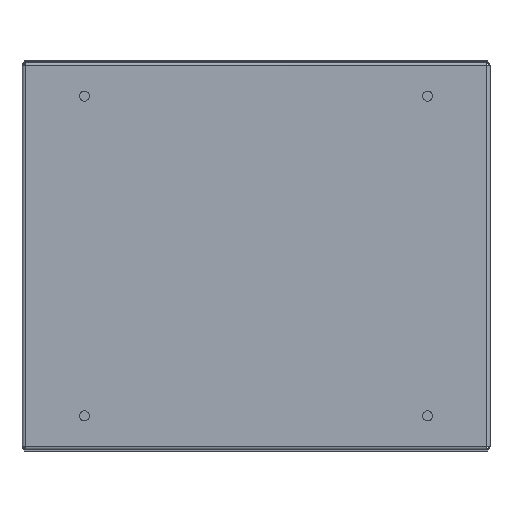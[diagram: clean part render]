
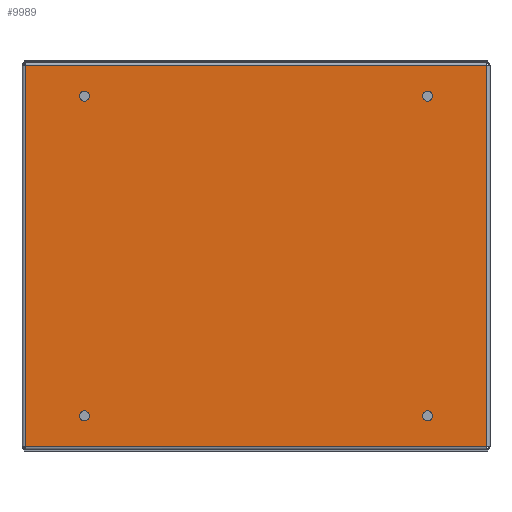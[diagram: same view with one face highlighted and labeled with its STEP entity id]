
A CAD part, front view. The second image highlights one B-rep face of the part: STEP entity #9989.
In plain terms, the highlighted planar face has unit normal (0, -1, 0).
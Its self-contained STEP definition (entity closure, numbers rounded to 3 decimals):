
#21 = EDGE_LOOP ( 'NONE', ( #4664, #37 ) ) ;
#37 = ORIENTED_EDGE ( 'NONE', *, *, #8574, .T. ) ;
#196 = CIRCLE ( 'NONE', #4793, 3.25 ) ;
#270 = AXIS2_PLACEMENT_3D ( 'NONE', #7053, #9759, #11617 ) ;
#336 = EDGE_CURVE ( 'NONE', #427, #9142, #1492, .T. ) ;
#392 = VERTEX_POINT ( 'NONE', #10353 ) ;
#427 = VERTEX_POINT ( 'NONE', #5896 ) ;
#575 = DIRECTION ( 'NONE',  ( 1., 0., 0. ) ) ;
#592 = PLANE ( 'NONE',  #3121 ) ;
#633 = CARTESIAN_POINT ( 'NONE',  ( 110., 0., 102.5 ) ) ;
#783 = LINE ( 'NONE', #10043, #10063 ) ;
#845 = FACE_BOUND ( 'NONE', #3910, .T. ) ;
#1004 = DIRECTION ( 'NONE',  ( -1., 0., 0. ) ) ;
#1067 = VERTEX_POINT ( 'NONE', #4144 ) ;
#1172 = DIRECTION ( 'NONE',  ( -1., 0., 0. ) ) ;
#1174 = ORIENTED_EDGE ( 'NONE', *, *, #10409, .T. ) ;
#1396 = DIRECTION ( 'NONE',  ( 0., 1., 0. ) ) ;
#1492 = CIRCLE ( 'NONE', #7358, 3.25 ) ;
#1644 = DIRECTION ( 'NONE',  ( 0., -1., 0. ) ) ;
#1645 = CARTESIAN_POINT ( 'NONE',  ( 113.25, 0., 102.5 ) ) ;
#1667 = AXIS2_PLACEMENT_3D ( 'NONE', #6246, #4285, #7206 ) ;
#1911 = DIRECTION ( 'NONE',  ( 1., 0., 0. ) ) ;
#2316 = AXIS2_PLACEMENT_3D ( 'NONE', #5920, #1396, #8856 ) ;
#2392 = LINE ( 'NONE', #4294, #9764 ) ;
#2424 = CARTESIAN_POINT ( 'NONE',  ( 106.75, 0., -102.5 ) ) ;
#2435 = CIRCLE ( 'NONE', #5753, 3.25 ) ;
#2472 = EDGE_LOOP ( 'NONE', ( #7196, #6076 ) ) ;
#2508 = VECTOR ( 'NONE', #4437, 1000. ) ;
#2769 = ORIENTED_EDGE ( 'NONE', *, *, #336, .T. ) ;
#2997 = DIRECTION ( 'NONE',  ( 0., 1., 0. ) ) ;
#3121 = AXIS2_PLACEMENT_3D ( 'NONE', #11754, #1644, #8116 ) ;
#3215 = EDGE_CURVE ( 'NONE', #6243, #11865, #9476, .T. ) ;
#3273 = CARTESIAN_POINT ( 'NONE',  ( -113.25, 0., 102.5 ) ) ;
#3458 = VERTEX_POINT ( 'NONE', #9231 ) ;
#3496 = ORIENTED_EDGE ( 'NONE', *, *, #3673, .T. ) ;
#3530 = CARTESIAN_POINT ( 'NONE',  ( -110., 0., 102.5 ) ) ;
#3673 = EDGE_CURVE ( 'NONE', #11865, #6243, #9868, .T. ) ;
#3747 = FACE_BOUND ( 'NONE', #21, .T. ) ;
#3887 = ORIENTED_EDGE ( 'NONE', *, *, #11788, .T. ) ;
#3910 = EDGE_LOOP ( 'NONE', ( #1174, #2769 ) ) ;
#3914 = DIRECTION ( 'NONE',  ( 0., 1., 0. ) ) ;
#4144 = CARTESIAN_POINT ( 'NONE',  ( -148., 0., 122.2 ) ) ;
#4285 = DIRECTION ( 'NONE',  ( 0., 1., 0. ) ) ;
#4294 = CARTESIAN_POINT ( 'NONE',  ( -148., 0., -122.2 ) ) ;
#4360 = CARTESIAN_POINT ( 'NONE',  ( -110., 0., -102.5 ) ) ;
#4380 = DIRECTION ( 'NONE',  ( 0., 1., 0. ) ) ;
#4437 = DIRECTION ( 'NONE',  ( -1., 0., 0. ) ) ;
#4664 = ORIENTED_EDGE ( 'NONE', *, *, #8491, .T. ) ;
#4715 = DIRECTION ( 'NONE',  ( -1., 0., 0. ) ) ;
#4793 = AXIS2_PLACEMENT_3D ( 'NONE', #633, #11049, #1004 ) ;
#5093 = AXIS2_PLACEMENT_3D ( 'NONE', #3530, #4380, #9139 ) ;
#5120 = DIRECTION ( 'NONE',  ( 0., 1., 0. ) ) ;
#5652 = CARTESIAN_POINT ( 'NONE',  ( 110., 0., -102.5 ) ) ;
#5753 = AXIS2_PLACEMENT_3D ( 'NONE', #10217, #3914, #4715 ) ;
#5896 = CARTESIAN_POINT ( 'NONE',  ( 113.25, 0., -102.5 ) ) ;
#5901 = CARTESIAN_POINT ( 'NONE',  ( 148., 0., 122.2 ) ) ;
#5918 = FACE_BOUND ( 'NONE', #2472, .T. ) ;
#5920 = CARTESIAN_POINT ( 'NONE',  ( -110., 0., -102.5 ) ) ;
#5950 = EDGE_CURVE ( 'NONE', #392, #1067, #2392, .T. ) ;
#5996 = CARTESIAN_POINT ( 'NONE',  ( 148., 0., -122.2 ) ) ;
#6025 = CIRCLE ( 'NONE', #5093, 3.25 ) ;
#6050 = CIRCLE ( 'NONE', #1667, 3.25 ) ;
#6076 = ORIENTED_EDGE ( 'NONE', *, *, #10647, .T. ) ;
#6243 = VERTEX_POINT ( 'NONE', #9787 ) ;
#6246 = CARTESIAN_POINT ( 'NONE',  ( 110., 0., -102.5 ) ) ;
#6275 = VERTEX_POINT ( 'NONE', #3273 ) ;
#6492 = CARTESIAN_POINT ( 'NONE',  ( 106.75, 0., 102.5 ) ) ;
#6688 = FACE_BOUND ( 'NONE', #9411, .T. ) ;
#6981 = FACE_OUTER_BOUND ( 'NONE', #11945, .T. ) ;
#7053 = CARTESIAN_POINT ( 'NONE',  ( -110., 0., 102.5 ) ) ;
#7176 = ORIENTED_EDGE ( 'NONE', *, *, #11435, .T. ) ;
#7196 = ORIENTED_EDGE ( 'NONE', *, *, #8726, .T. ) ;
#7206 = DIRECTION ( 'NONE',  ( -1., 0., 0. ) ) ;
#7330 = EDGE_CURVE ( 'NONE', #3458, #10080, #10136, .T. ) ;
#7358 = AXIS2_PLACEMENT_3D ( 'NONE', #5652, #2997, #1172 ) ;
#7713 = VECTOR ( 'NONE', #11620, 1000. ) ;
#7842 = ORIENTED_EDGE ( 'NONE', *, *, #5950, .F. ) ;
#7928 = ORIENTED_EDGE ( 'NONE', *, *, #3215, .T. ) ;
#7976 = CARTESIAN_POINT ( 'NONE',  ( -106.75, 0., 102.5 ) ) ;
#8020 = CARTESIAN_POINT ( 'NONE',  ( 148., 0., 122.2 ) ) ;
#8116 = DIRECTION ( 'NONE',  ( -1., 0., 0. ) ) ;
#8465 = ORIENTED_EDGE ( 'NONE', *, *, #7330, .T. ) ;
#8491 = EDGE_CURVE ( 'NONE', #10773, #6275, #11982, .T. ) ;
#8574 = EDGE_CURVE ( 'NONE', #6275, #10773, #6025, .T. ) ;
#8605 = VERTEX_POINT ( 'NONE', #1645 ) ;
#8726 = EDGE_CURVE ( 'NONE', #10576, #8605, #196, .T. ) ;
#8793 = AXIS2_PLACEMENT_3D ( 'NONE', #4360, #5120, #575 ) ;
#8856 = DIRECTION ( 'NONE',  ( 1., 0., 0. ) ) ;
#9139 = DIRECTION ( 'NONE',  ( 1., 0., 0. ) ) ;
#9142 = VERTEX_POINT ( 'NONE', #2424 ) ;
#9231 = CARTESIAN_POINT ( 'NONE',  ( 148., 0., -122.2 ) ) ;
#9411 = EDGE_LOOP ( 'NONE', ( #7928, #3496 ) ) ;
#9476 = CIRCLE ( 'NONE', #8793, 3.25 ) ;
#9759 = DIRECTION ( 'NONE',  ( 0., 1., 0. ) ) ;
#9764 = VECTOR ( 'NONE', #11006, 1000. ) ;
#9787 = CARTESIAN_POINT ( 'NONE',  ( -106.75, 0., -102.5 ) ) ;
#9868 = CIRCLE ( 'NONE', #2316, 3.25 ) ;
#9989 = ADVANCED_FACE ( 'NONE', ( #6981, #6688, #3747, #5918, #845 ), #592, .T. ) ;
#10043 = CARTESIAN_POINT ( 'NONE',  ( -148., 0., -122.2 ) ) ;
#10063 = VECTOR ( 'NONE', #1911, 1000. ) ;
#10080 = VERTEX_POINT ( 'NONE', #5901 ) ;
#10136 = LINE ( 'NONE', #5996, #7713 ) ;
#10217 = CARTESIAN_POINT ( 'NONE',  ( 110., 0., 102.5 ) ) ;
#10353 = CARTESIAN_POINT ( 'NONE',  ( -148., 0., -122.2 ) ) ;
#10409 = EDGE_CURVE ( 'NONE', #9142, #427, #6050, .T. ) ;
#10576 = VERTEX_POINT ( 'NONE', #6492 ) ;
#10647 = EDGE_CURVE ( 'NONE', #8605, #10576, #2435, .T. ) ;
#10773 = VERTEX_POINT ( 'NONE', #7976 ) ;
#11006 = DIRECTION ( 'NONE',  ( 0., 0., 1. ) ) ;
#11049 = DIRECTION ( 'NONE',  ( 0., 1., 0. ) ) ;
#11435 = EDGE_CURVE ( 'NONE', #392, #3458, #783, .T. ) ;
#11617 = DIRECTION ( 'NONE',  ( 1., 0., 0. ) ) ;
#11620 = DIRECTION ( 'NONE',  ( 0., 0., 1. ) ) ;
#11754 = CARTESIAN_POINT ( 'NONE',  ( -148., 0., -124.2 ) ) ;
#11788 = EDGE_CURVE ( 'NONE', #10080, #1067, #11935, .T. ) ;
#11865 = VERTEX_POINT ( 'NONE', #11969 ) ;
#11935 = LINE ( 'NONE', #8020, #2508 ) ;
#11945 = EDGE_LOOP ( 'NONE', ( #7176, #8465, #3887, #7842 ) ) ;
#11969 = CARTESIAN_POINT ( 'NONE',  ( -113.25, 0., -102.5 ) ) ;
#11982 = CIRCLE ( 'NONE', #270, 3.25 ) ;
